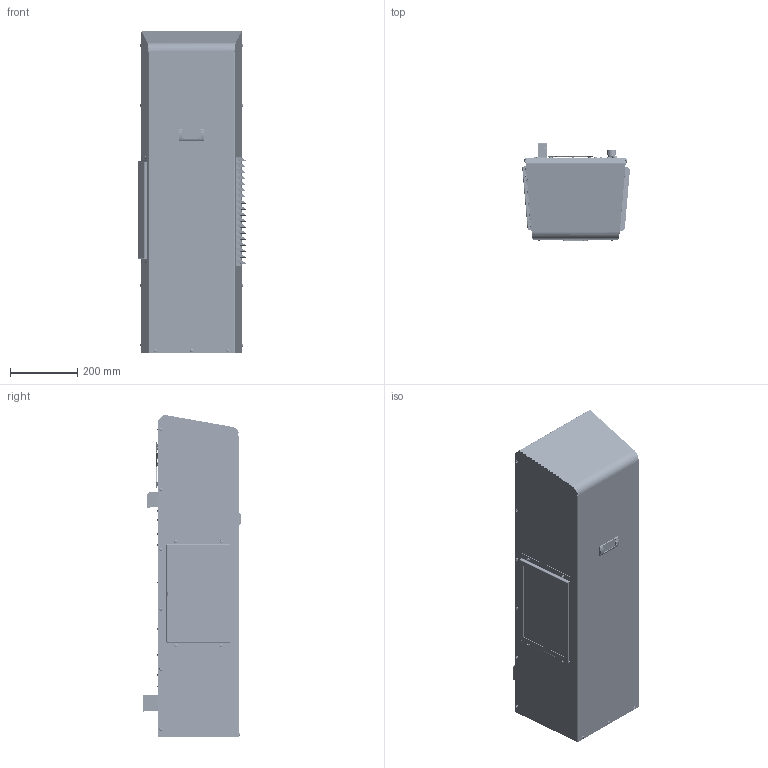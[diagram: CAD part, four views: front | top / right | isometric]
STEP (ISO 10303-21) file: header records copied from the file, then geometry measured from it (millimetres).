
FILE_DESCRIPTION(/* description */ ('Unknown'),/* implementation_level */ '2;1');
FILE_NAME(/* name */ 'NE020-030-040-480V - Visible Internals Only - OK For Distribution',/* time_stamp */ '2021-08-30T14:57:08-05:00',/* author */ ('Unknown'),/* organization */ ('Unknown'),/* preprocessor_version */ 'ST-DEVELOPER v16.7',/* originating_system */ 'Solid Edge',/* authorisation */ 'Unknown');
FILE_SCHEMA (('AUTOMOTIVE_DESIGN {1 0 10303 214 3 1 1}'));
Products named in the file (145): NE020-030-040-480V - Visible Internals Only - OK For Distribution; 20022-480, Chassis, NE040 Gen II Phoenix Contact, Air Inlet Grid, Int
ernal XFormer_0; 22443, Compressor Mount Panel, Internal XFormer_0; PEM 0518-1 Clinch Nut_1; Washer, Flat, 1^4 x .038 thk_1; 22435, Water Baffle, NE234 480V_0; PEM stud FH-0420-08_0; Nut 1^4-20 HEX_0; Washer, Split Lock, 1^4 x .052 thk_1; 22417, Sliding Filter Retainer, 2,3,4000V_1; 22440, Standoff, Right, NE040 Gen II_1; 22439, Standoff, Left, NE040 Gen II_1; 0.25-20 PEM Clinch Nut_1; 59010-1-1, Madison Elec 50A650 Cord Grip_0_0; 20003, Shroud, Internal Transformer_0; 22444, Flange, Drain Fitting Mount, NE234 480V_0; 44010_Filter, Framed_NE4000_1; 30008 Rev A, Evap Coil, NE040, -030, -020_1; 30008, Flange, Evap Coil, 10h x 3 row, Left_1; 30008, Flange, Evap Coil, 10h x 3 row, Right_1; 7.5w 10h 3 row Fin Face_1; 22441, seal, Evap Top, NE040 Gen II_1; 22425, Phoenix Terminal Block Cover, 3 Position, Vertical_0; Switch_Cherry RRA22H3BBBN_0_1; 52543-1, Phoenix 3 Position Socket, dfk-pc_5-3-st_7.62_0; Fan, Mechatronics UF15A(C) and Orion OA172SAPL_0; UF15A(C) and OA172SAPL Rotor_0; UF15AC and OA172SAPL Snap Ring_0; UF15A(C) and OA172SAPL Stator_0; UF15AC and OA172SAPL Thrust Spring_0; Finger Guard 172mm_1; 22435, SubAsm, Condenser, Gen II_1; 22436, PLENUM, DEEP, NE040 Gen II_1; 22437, Baffle, Condenser Ceiling, NE040 Gen II_1; 22422 Rev A, Mount, Condenser 172mmFan, NE4000 MxRA_1; 22438, Baffle, Condenser Floor, NE040 Gen II_1; 0.1875 Rivet, SIMPLE and SWOLLEN_0_1; Strain Relief, Small, MP5N4 w flats_0_0; Latch_0_0; 0.1875 Rivet, SIMPLE and SWOLLEN_0_0_0 ...
Assembly tree (240 placements, depth 4):
  NE020-030-040-480V - Visible Internals Only - OK For Distribution
    20022-480, Chassis, NE040 Gen II Phoenix Contact, Air Inlet Grid, Int
ernal XFormer_0
    22443, Compressor Mount Panel, Internal XFormer_0
      22443, Compressor Mount Panel, Internal XFormer_0
      PEM 0518-1 Clinch Nut_1  x8
    Washer, Flat, 1^4 x .038 thk_1  x4
    22435, Water Baffle, NE234 480V_0
    PEM stud FH-0420-08_0  x4
    Nut 1^4-20 HEX_0  x4
    Washer, Split Lock, 1^4 x .052 thk_1  x4
    22417, Sliding Filter Retainer, 2,3,4000V_1
    22440, Standoff, Right, NE040 Gen II_1
    22439, Standoff, Left, NE040 Gen II_1
    0.25-20 PEM Clinch Nut_1  x10
    59010-1-1, Madison Elec 50A650 Cord Grip_0_0
    20003, Shroud, Internal Transformer_0
    22444, Flange, Drain Fitting Mount, NE234 480V_0
    44010_Filter, Framed_NE4000_1
    30008 Rev A, Evap Coil, NE040, -030, -020_1
      30008, Flange, Evap Coil, 10h x 3 row, Left_1
        30008, Flange, Evap Coil, 10h x 3 row, Left_1
      30008, Flange, Evap Coil, 10h x 3 row, Right_1
        30008, Flange, Evap Coil, 10h x 3 row, Right_1
      7.5w 10h 3 row Fin Face_1
        7.5w 10h 3 row Fin Face_1
    22441, seal, Evap Top, NE040 Gen II_1
    22425, Phoenix Terminal Block Cover, 3 Position, Vertical_0
    Switch_Cherry RRA22H3BBBN_0_1
    52543-1, Phoenix 3 Position Socket, dfk-pc_5-3-st_7.62_0
    Fan, Mechatronics UF15A(C) and Orion OA172SAPL_0
      UF15A(C) and OA172SAPL Rotor_0
      UF15AC and OA172SAPL Snap Ring_0
      UF15A(C) and OA172SAPL Stator_0
      UF15AC and OA172SAPL Thrust Spring_0
    Finger Guard 172mm_1
    22435, SubAsm, Condenser, Gen II_1
      22436, PLENUM, DEEP, NE040 Gen II_1
      22437, Baffle, Condenser Ceiling, NE040 Gen II_1
      22422 Rev A, Mount, Condenser 172mmFan, NE4000 MxRA_1
      22438, Baffle, Condenser Floor, NE040 Gen II_1
      0.1875 Rivet, SIMPLE and SWOLLEN_0_1  x17
    Strain Relief, Small, MP5N4 w flats_0_0  x2
      Strain Relief, Small, MP5N4 w flats_0_0
      Latch_0_0
    0.1875 Rivet, SIMPLE and SWOLLEN_0_0_0  x26
    30023_Condenser_1
      1.00 CU Hairpin_0  x2
        1.00 CU Hairpin_1
      1.00 CU Hairpin-oa0_0
        1.00 CU Hairpin-oa0_0
      1.00 CU Hairpin-oa1_0
        1.00 CU Hairpin-oa1_0
      1.00 CU Hairpin-oa2_0
        1.00 CU Hairpin-oa2_0
      1.00 CU Hairpin-oa3_0
        1.00 CU Hairpin-oa3_0
      1.00 CU Hairpin-oa4_0
        1.00 CU Hairpin-oa4_0
      1.00 CU Hairpin-oa5_0
        1.00 CU Hairpin-oa5_0
Bounding box: 319.4 x 293.13 x 957.09 mm (x, y, z)
Volume: 10347888.6 mm3; surface area: 4358833.1 mm2
Topology: 238 solids, 242 shells, 6821 faces, 17594 edges, 11387 vertices
Faces by surface type: plane 3757, cylinder 2141, torus 414, bspline 270, cone 178, sphere 61
Full cylindrical faces by diameter (mm): 0.457 x1, 1.016 x3, 1.143 x4, 1.2 x2, 1.633 x1, 2.083 x2, 2.311 x2, 2.515 x3, 2.54 x9, 2.769 x6, 2.946 x2, 3.048 x4, 3.175 x6, 3.2 x2, 3.3 x1, 3.454 x1, 3.556 x4, 3.734 x1, 3.81 x6, 3.967 x1, 4 x2, 4.216 x4, 4.3 x4, 4.318 x20, 4.674 x8, 4.75 x4, 4.775 x86, 4.902 x6, 4.928 x51, 4.953 x4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
Entity records: 194041 total; most frequent: CARTESIAN_POINT 54780, DIRECTION 25176, ORIENTED_EDGE 25048, EDGE_CURVE 12524, VERTEX_POINT 8566, AXIS2_PLACEMENT_3D 8527, LINE 8122, VECTOR 8122
